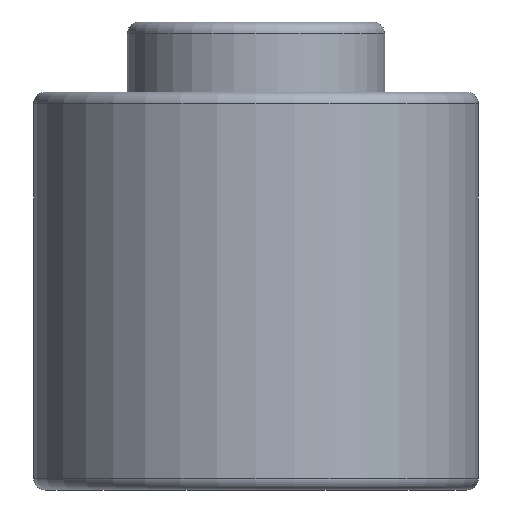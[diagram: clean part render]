
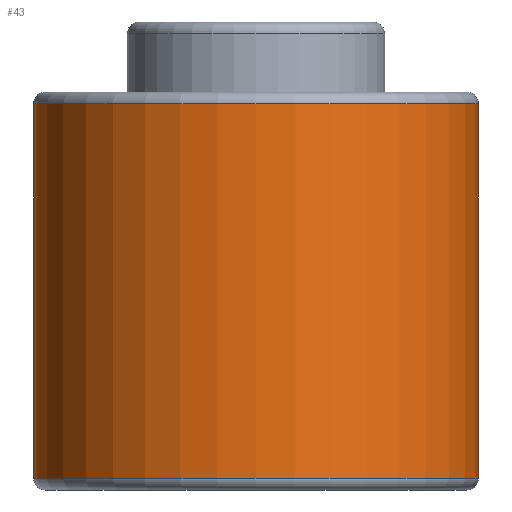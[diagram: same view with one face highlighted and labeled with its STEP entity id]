
A CAD part, front view. The second image highlights one B-rep face of the part: STEP entity #43.
In plain terms, the highlighted cylindrical face has radius 19 mm (diameter 38 mm), a full revolution.
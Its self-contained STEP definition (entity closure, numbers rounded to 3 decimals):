
#43=ADVANCED_FACE('',(#56,#57),#53,.T.);
#53=CYLINDRICAL_SURFACE('',#141,19.);
#56=FACE_BOUND('',#74,.T.);
#57=FACE_BOUND('',#75,.T.);
#74=EDGE_LOOP('',(#92));
#75=EDGE_LOOP('',(#93));
#92=ORIENTED_EDGE('',*,*,#120,.F.);
#93=ORIENTED_EDGE('',*,*,#121,.T.);
#110=VERTEX_POINT('',#200);
#111=VERTEX_POINT('',#202);
#120=EDGE_CURVE('',#110,#110,#129,.T.);
#121=EDGE_CURVE('',#111,#111,#130,.T.);
#129=CIRCLE('',#139,19.);
#130=CIRCLE('',#140,19.);
#139=AXIS2_PLACEMENT_3D('',#199,#160,#161);
#140=AXIS2_PLACEMENT_3D('',#201,#162,#163);
#141=AXIS2_PLACEMENT_3D('',#203,#164,#165);
#160=DIRECTION('',(0.,0.,-1.));
#161=DIRECTION('',(-1.,0.,0.));
#162=DIRECTION('',(0.,0.,-1.));
#163=DIRECTION('',(-1.,0.,0.));
#164=DIRECTION('',(0.,0.,-1.));
#165=DIRECTION('',(-1.,0.,0.));
#199=CARTESIAN_POINT('',(0.,0.,1.));
#200=CARTESIAN_POINT('',(-19.,0.,1.));
#201=CARTESIAN_POINT('',(0.,0.,33.));
#202=CARTESIAN_POINT('',(-19.,0.,33.));
#203=CARTESIAN_POINT('',(0.,0.,0.));
